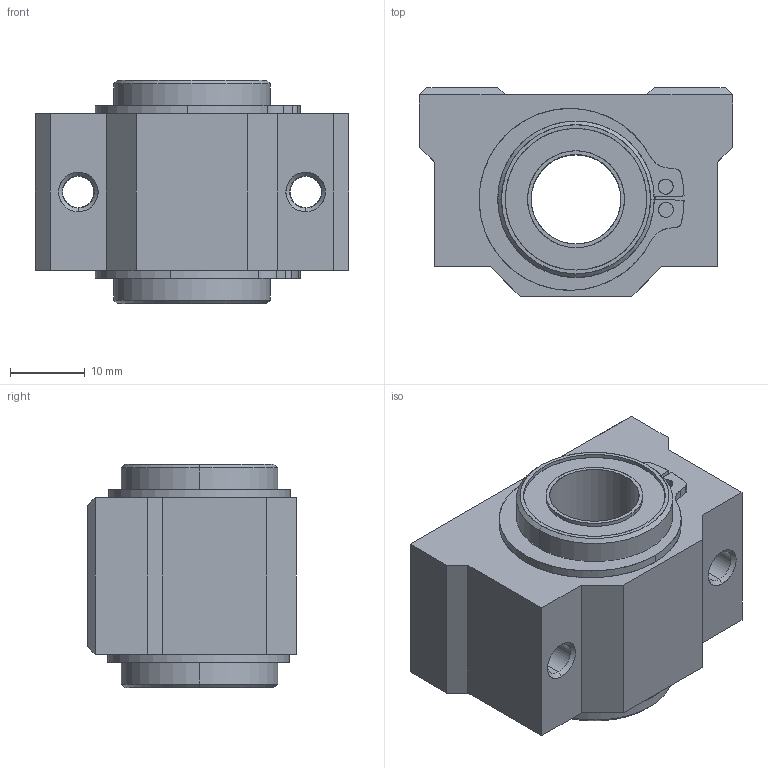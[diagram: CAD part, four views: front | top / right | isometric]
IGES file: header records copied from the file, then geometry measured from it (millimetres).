
Start section: SolidWorks IGES file using analytic representation for surfaces
Global section: file name: D:\SOLIDWORKS PROEKTI\freelance cnc cat\VTORA SERIJA\SC-VUU\SC12VUU.IGS; native system: SolidWorks 2016; preprocessor: SolidWorks 2016; author: User; date: 170805.195312; units: millimetre
Bounding box: 42 x 28 x 30 mm (x, y, z)
Surface area: 10834.9 mm2 (no closed solid volume)
Topology: 0 solids, 0 shells, 294 faces, 6806 edges, 8330 vertices
Faces by surface type: bspline 209, revolution 85
